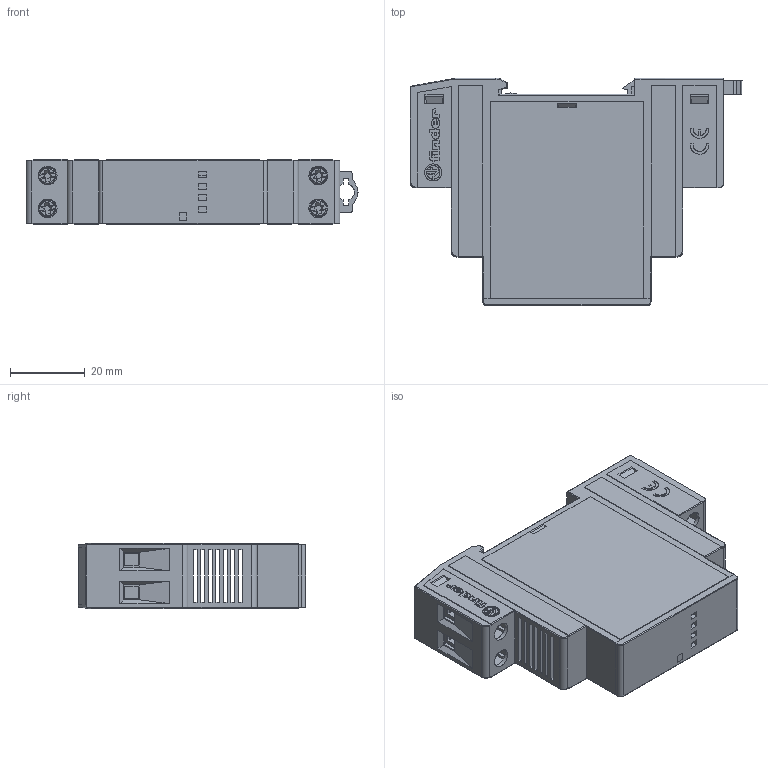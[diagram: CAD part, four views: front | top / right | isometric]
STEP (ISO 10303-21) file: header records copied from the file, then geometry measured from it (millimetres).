
FILE_DESCRIPTION(('STEP AP214'),'2;1');
FILE_NAME('77_01---complessivo_OK.stp','2011-02-17T09:59:55',(''),(''),'2007.1.106','THINKDESIGN','');
FILE_SCHEMA(('AUTOMOTIVE_DESIGN'));
Products named in the file (1): None
Bounding box: 88.85 x 60.8 x 17.5 mm (x, y, z)
Surface area: 18701.5 mm2 (no closed solid volume)
Topology: 0 solids, 0 shells, 1037 faces, 6181 edges, 6164 vertices
Faces by surface type: plane 830, cylinder 113, bspline 94
Full cylindrical faces by diameter (mm): 3 x6, 5 x4
Entity records: 63236 total; most frequent: CARTESIAN_POINT 18921, DIRECTION 7658, COMPOSITE_CURVE_SEGMENT 6181, TRIMMED_CURVE 5544, VECTOR 5348, LINE 5348, AXIS2_PLACEMENT_3D 1155, OUTER_BOUNDARY_CURVE 1037
